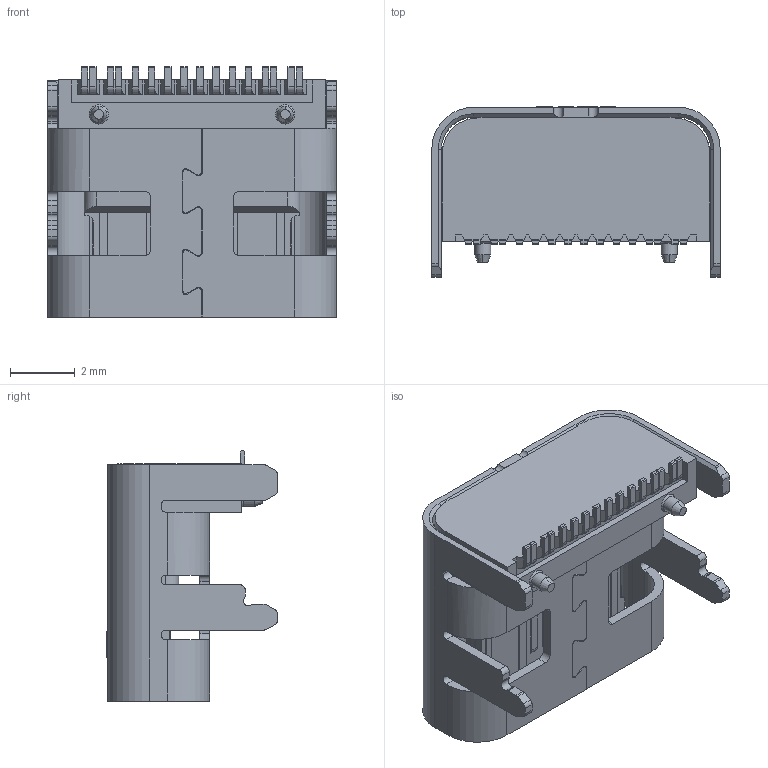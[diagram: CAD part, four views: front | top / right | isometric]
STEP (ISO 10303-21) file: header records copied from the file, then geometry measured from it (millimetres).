
FILE_DESCRIPTION (( 'STEP AP214' ), '1' );
FILE_NAME ('U5096-16PN1.0G7.35L.STEP', '2026-06-02T05:43:06', ( '' ), ( '' ), 'SwSTEP 2.0', 'SolidWorks 2024', '' );
FILE_SCHEMA (( 'AUTOMOTIVE_DESIGN' ));
Length unit declared in the file: millimetre
Products named in the file (1): U5096-16PN1.0G7.35L
Bounding box: 8.94 x 5.29 x 7.75 mm (x, y, z)
Volume: 130.4 mm3; surface area: 498.3 mm2
Topology: 1 solids, 1 shells, 663 faces, 1912 edges, 1250 vertices
Faces by surface type: plane 427, cylinder 193, bspline 25, cone 18
Entity records: 23037 total; most frequent: CARTESIAN_POINT 5543, ORIENTED_EDGE 3824, DIRECTION 3478, EDGE_CURVE 1912, LINE 1420, VECTOR 1420, VERTEX_POINT 1250, AXIS2_PLACEMENT_3D 1029
